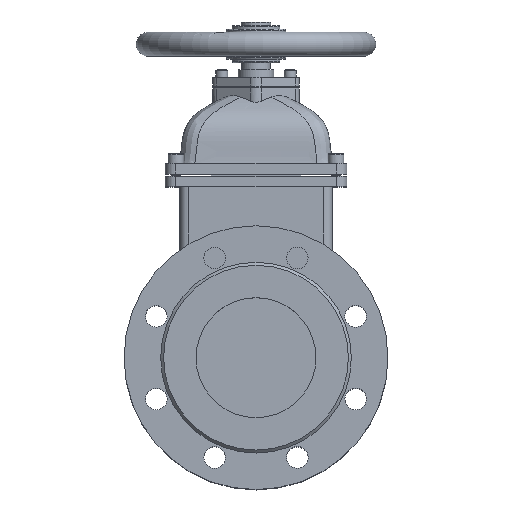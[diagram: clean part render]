
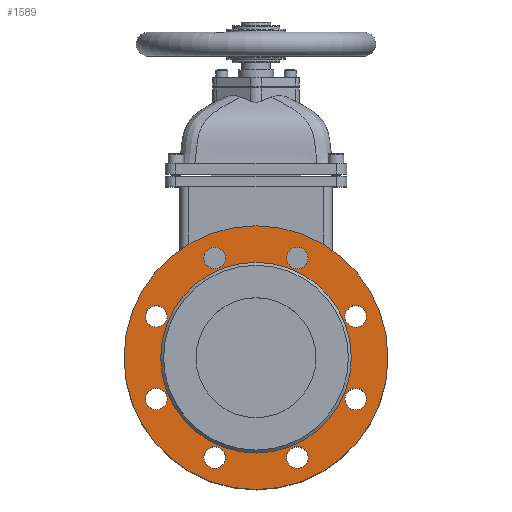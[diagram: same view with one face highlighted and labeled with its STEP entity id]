
A CAD part, top view. The second image highlights one B-rep face of the part: STEP entity #1589.
In plain terms, the highlighted planar face has unit normal (0, 0, 1).
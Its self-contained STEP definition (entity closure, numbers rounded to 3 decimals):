
#1589=ADVANCED_FACE('',(#4529,#4531,#4533,#4535,#4537,#4539,#4541,#4543,#4545,#4547),
#4549,.T.);
#4529=FACE_BOUND('',#4530,.T.);
#4530=EDGE_LOOP('',(#10319));
#4531=FACE_BOUND('',#4532,.T.);
#4532=EDGE_LOOP('',(#10320));
#4533=FACE_BOUND('',#4534,.T.);
#4534=EDGE_LOOP('',(#10321));
#4535=FACE_BOUND('',#4536,.T.);
#4536=EDGE_LOOP('',(#10322));
#4537=FACE_BOUND('',#4538,.T.);
#4538=EDGE_LOOP('',(#10323));
#4539=FACE_BOUND('',#4540,.T.);
#4540=EDGE_LOOP('',(#10324));
#4541=FACE_BOUND('',#4542,.T.);
#4542=EDGE_LOOP('',(#10325));
#4543=FACE_BOUND('',#4544,.T.);
#4544=EDGE_LOOP('',(#10326));
#4545=FACE_BOUND('',#4546,.T.);
#4546=EDGE_LOOP('',(#10327));
#4547=FACE_BOUND('',#4548,.T.);
#4548=EDGE_LOOP('',(#10328));
#4549=PLANE('',#4550);
#4550=AXIS2_PLACEMENT_3D('',#4551,#4552,#4553);
#4551=CARTESIAN_POINT('',(0.,0.,92.5));
#4552=DIRECTION('',(0.,0.,1.));
#4553=DIRECTION('',(0.,1.,0.));
#10319=ORIENTED_EDGE('',*,*,#11544,.F.);
#10320=ORIENTED_EDGE('',*,*,#11552,.T.);
#10321=ORIENTED_EDGE('',*,*,#11551,.T.);
#10322=ORIENTED_EDGE('',*,*,#11550,.T.);
#10323=ORIENTED_EDGE('',*,*,#11549,.T.);
#10324=ORIENTED_EDGE('',*,*,#11548,.T.);
#10325=ORIENTED_EDGE('',*,*,#11547,.T.);
#10326=ORIENTED_EDGE('',*,*,#11546,.T.);
#10327=ORIENTED_EDGE('',*,*,#11569,.T.);
#10328=ORIENTED_EDGE('',*,*,#11545,.T.);
#11544=EDGE_CURVE('',#12600,#12600,#12601,.T.);
#11545=EDGE_CURVE('',#12602,#12602,#12603,.F.);
#11546=EDGE_CURVE('',#12604,#12604,#12605,.F.);
#11547=EDGE_CURVE('',#12606,#12606,#12607,.F.);
#11548=EDGE_CURVE('',#12608,#12608,#12609,.F.);
#11549=EDGE_CURVE('',#12610,#12610,#12611,.F.);
#11550=EDGE_CURVE('',#12612,#12612,#12613,.F.);
#11551=EDGE_CURVE('',#12614,#12614,#12615,.F.);
#11552=EDGE_CURVE('',#12616,#12616,#12617,.F.);
#11569=EDGE_CURVE('',#12642,#12642,#12643,.T.);
#12600=VERTEX_POINT('',#14860);
#12601=CIRCLE('',#14861,110.);
#12602=VERTEX_POINT('',#14865);
#12603=CIRCLE('',#14866,9.);
#12604=VERTEX_POINT('',#14870);
#12605=CIRCLE('',#14871,9.);
#12606=VERTEX_POINT('',#14875);
#12607=CIRCLE('',#14876,9.);
#12608=VERTEX_POINT('',#14880);
#12609=CIRCLE('',#14881,9.);
#12610=VERTEX_POINT('',#14885);
#12611=CIRCLE('',#14886,9.);
#12612=VERTEX_POINT('',#14890);
#12613=CIRCLE('',#14891,9.);
#12614=VERTEX_POINT('',#14895);
#12615=CIRCLE('',#14896,9.);
#12616=VERTEX_POINT('',#14900);
#12617=CIRCLE('',#14901,9.);
#12642=VERTEX_POINT('',#14965);
#12643=CIRCLE('',#14966,79.5);
#14860=CARTESIAN_POINT('',(0.,110.,92.5));
#14861=AXIS2_PLACEMENT_3D('',#14862,#14863,#14864);
#14862=CARTESIAN_POINT('',(0.,0.,92.5));
#14863=DIRECTION('',(0.,0.,-1.));
#14864=DIRECTION('',(0.,1.,0.));
#14865=CARTESIAN_POINT('',(43.442,83.149,92.5));
#14866=AXIS2_PLACEMENT_3D('',#14867,#14868,#14869);
#14867=CARTESIAN_POINT('',(34.442,83.149,92.5));
#14868=DIRECTION('',(0.,0.,1.));
#14869=DIRECTION('',(1.,0.,0.));
#14870=CARTESIAN_POINT('',(-28.078,89.513,92.5));
#14871=AXIS2_PLACEMENT_3D('',#14872,#14873,#14874);
#14872=CARTESIAN_POINT('',(-34.442,83.149,92.5));
#14873=DIRECTION('',(0.,0.,1.));
#14874=DIRECTION('',(0.707,0.707,0.));
#14875=CARTESIAN_POINT('',(-83.149,43.442,92.5));
#14876=AXIS2_PLACEMENT_3D('',#14877,#14878,#14879);
#14877=CARTESIAN_POINT('',(-83.149,34.442,92.5));
#14878=DIRECTION('',(0.,0.,1.));
#14879=DIRECTION('',(0.,1.,0.));
#14880=CARTESIAN_POINT('',(-89.513,-28.078,92.5));
#14881=AXIS2_PLACEMENT_3D('',#14882,#14883,#14884);
#14882=CARTESIAN_POINT('',(-83.149,-34.442,92.5));
#14883=DIRECTION('',(0.,0.,1.));
#14884=DIRECTION('',(-0.707,0.707,0.));
#14885=CARTESIAN_POINT('',(-43.442,-83.149,92.5));
#14886=AXIS2_PLACEMENT_3D('',#14887,#14888,#14889);
#14887=CARTESIAN_POINT('',(-34.442,-83.149,92.5));
#14888=DIRECTION('',(0.,0.,1.));
#14889=DIRECTION('',(-1.,0.,0.));
#14890=CARTESIAN_POINT('',(28.078,-89.513,92.5));
#14891=AXIS2_PLACEMENT_3D('',#14892,#14893,#14894);
#14892=CARTESIAN_POINT('',(34.442,-83.149,92.5));
#14893=DIRECTION('',(0.,0.,1.));
#14894=DIRECTION('',(-0.707,-0.707,0.));
#14895=CARTESIAN_POINT('',(83.149,-43.442,92.5));
#14896=AXIS2_PLACEMENT_3D('',#14897,#14898,#14899);
#14897=CARTESIAN_POINT('',(83.149,-34.442,92.5));
#14898=DIRECTION('',(0.,0.,1.));
#14899=DIRECTION('',(0.,-1.,0.));
#14900=CARTESIAN_POINT('',(89.513,28.078,92.5));
#14901=AXIS2_PLACEMENT_3D('',#14902,#14903,#14904);
#14902=CARTESIAN_POINT('',(83.149,34.442,92.5));
#14903=DIRECTION('',(0.,0.,1.));
#14904=DIRECTION('',(0.707,-0.707,0.));
#14965=CARTESIAN_POINT('',(0.,79.5,92.5));
#14966=AXIS2_PLACEMENT_3D('',#14967,#14968,#14969);
#14967=CARTESIAN_POINT('',(0.,0.,92.5));
#14968=DIRECTION('',(0.,0.,-1.));
#14969=DIRECTION('',(0.,1.,0.));
